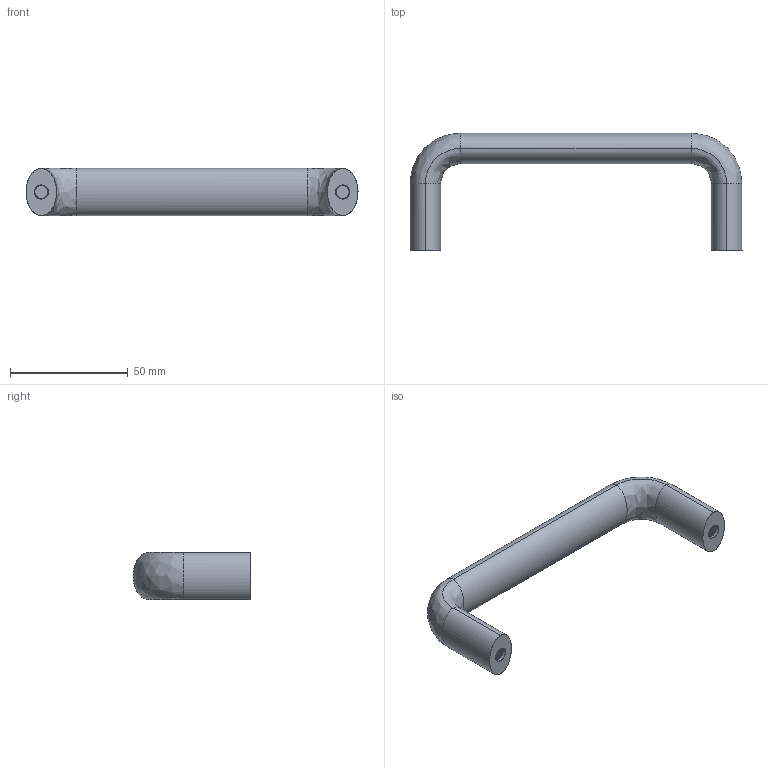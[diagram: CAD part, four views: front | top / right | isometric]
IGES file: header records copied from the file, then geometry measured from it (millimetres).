
Start section: SolidWorks IGES file using analytic representation for surfaces
Global section: file name: C:\Documents and Settings\Deathkiller\桌面\3D IGES\U型把手\MS-740\20\p=128.IGS; native system: SolidWorks 2006 by SolidWorks Corporation; preprocessor: SolidWorks 2006 by SolidWorks Corporation; author: Deathkiller; date: 080624.172054; units: millimetre
Bounding box: 141 x 49.98 x 20 mm (x, y, z)
Surface area: 11448.3 mm2 (no closed solid volume)
Topology: 0 solids, 0 shells, 62 faces, 1392 edges, 1392 vertices
Faces by surface type: revolution 40, bspline 22
